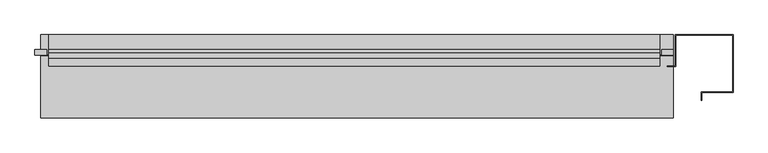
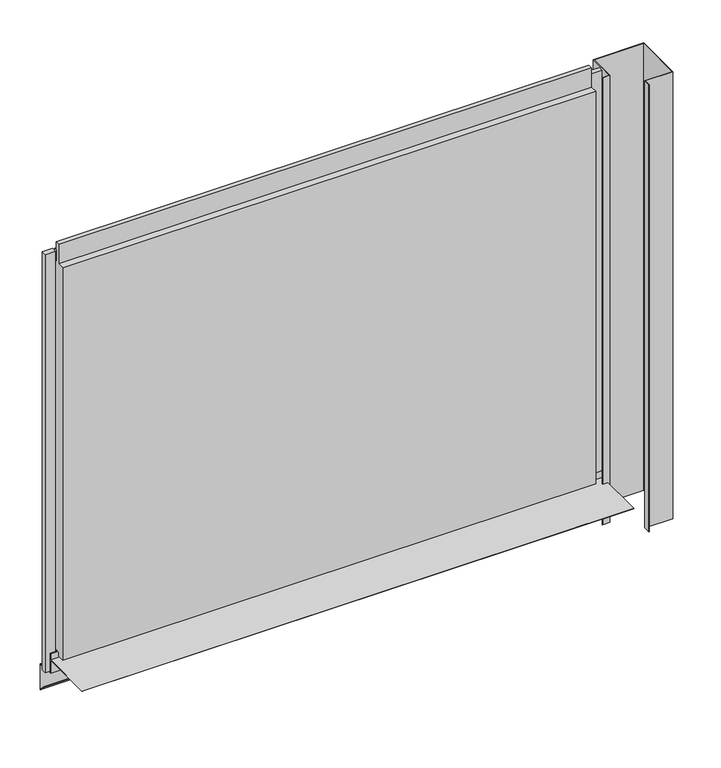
"""IFC4 building model written with IfcOpenShell, lengths in millimetres: plate geometry, Trimo_Qbiss Screen_Normal Panel-HORIZONTAL : HR - B."""

from ifc_helpers import new_model, si_unit, frame, origin, place, context, project, spatial, polyline, outline, extrude, source, transform, mapped, element, save


def plate_c5b51b30(model_context):
    return source(origin(), model_context, "Body", "SweptSolid", [
        extrude(outline(polyline([(111.7, 14.0835797), (112.5, 14.0835797), (112.5, -23.0), (145.0, -25.8433816), (145.0, -76.0), (132.1509533, -63.1509533), (132.7166388, -62.5852679), (144.2, -74.0686292), (144.2, -26.5764465), (111.7, -23.7330649), (111.7, 1.0), (12.5, 1.0), (12.5, 1.8), (111.7, 1.8), (111.7, 14.0835797)])), frame((-478.75, 0.0, 0.0), z_axis=(1.0, 0.0, 0.0), x_axis=(0.0, 1.0, 0.0)), (0.0, 0.0, 1.0), 1007.5),
        extrude(outline(polyline([(-469.25, 121.5978162), (-469.25, 112.8978162), (-488.25, 112.8978162), (-488.25, 121.5978162), (-469.25, 121.5978162)])), frame((0.0, 0.0, -20.0), z_axis=(0.0, 0.0, 1.0), x_axis=(1.0, 0.0, 0.0)), (0.0, 0.0, 1.0), 806.95),
        extrude(outline(polyline([(509.75, 112.8978162), (509.75, 121.5978162), (528.75, 121.5978162), (528.75, 112.8978162), (509.75, 112.8978162)])), frame((0.0, 0.0, -20.0), z_axis=(0.0, 0.0, 1.0), x_axis=(1.0, 0.0, 0.0)), (0.0, 0.0, 1.0), 806.95),
        extrude(outline(polyline([(506.75, 121.0), (506.75, 116.0), (-466.25, 116.0), (-466.25, 121.0), (506.75, 121.0)])), frame((0.0, 0.0, 765.95), z_axis=(0.0, 0.0, 1.0), x_axis=(1.0, 0.0, 0.0)), (0.0, 0.0, 1.0), 21.0),
        extrude(outline(polyline([(116.0, 764.95), (145.0, 764.95), (145.0, 0.0), (117.0, 0.0), (117.0, 15.5), (107.0, 15.5), (107.0, 7.0), (95.0, 7.0), (95.0, 764.95), (108.0, 764.95), (108.0, 802.45), (116.0, 802.45), (116.0, 764.95)])), frame((-466.25, 0.0, 0.0), z_axis=(1.0, 0.0, 0.0), x_axis=(0.0, 1.0, 0.0)), (0.0, 0.0, 1.0), 973.0),
        extrude(outline(polyline([(531.75, 95.0), (531.75, 145.0), (623.75, 145.0), (623.75, 53.0), (573.75, 53.0), (573.75, 40.5), (572.95, 40.5), (572.95, 53.8), (622.95, 53.8), (622.95, 144.2), (532.55, 144.2), (532.55, 94.1823429), (519.25, 94.1823429), (519.25, 95.0), (531.75, 95.0)])), frame((0.0, 0.0, -76.0), z_axis=(0.0, 0.0, 1.0), x_axis=(1.0, 0.0, 0.0)), (0.0, 0.0, 1.0), 862.95),
    ])


if __name__ == "__main__":
    model = new_model("IFC4")
    model_context = context("Model", 3, world=origin())
    ifc_project = project(units=[si_unit("LENGTHUNIT", "METRE", prefix="MILLI")], contexts=[model_context])
    site = spatial("IfcSite", under=ifc_project)
    building = spatial("IfcBuilding", under=site)
    placement = place(None, origin())
    plate_shape = plate_c5b51b30(model_context)
    element("IfcPlate", 1, ObjectType="Trimo_Qbiss Screen_Normal Panel-HORIZONTAL : HR - B", at=placement, inside=building, context=model_context, shape_type="MappedRepresentation", body=[
        mapped(plate_shape, transform((0.0, 0.0, 0.0), x_axis=(1.0, 0.0, 0.0), y_axis=(0.0, 1.0, 0.0), z_axis=(0.0, 0.0, 1.0))),
    ])
    save(model, "model.ifc")
